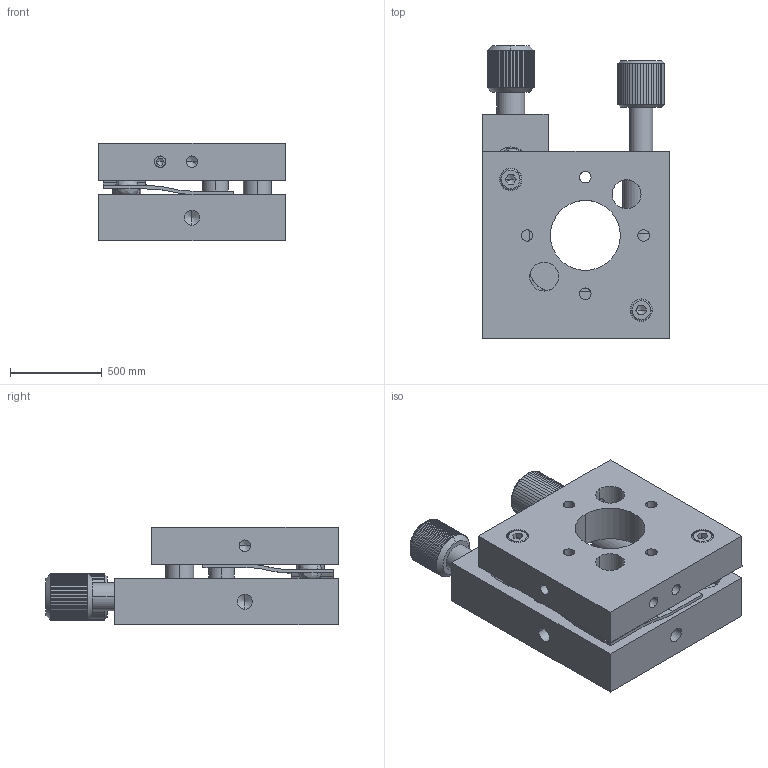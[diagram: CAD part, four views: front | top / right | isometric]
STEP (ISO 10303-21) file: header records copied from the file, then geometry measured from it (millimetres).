
FILE_DESCRIPTION (( 'STEP AP203' ), '1' );
FILE_NAME ('5OM122T.STEP', '2007-04-26T06:17:12', ( 'STANDA' ), ( '' ), 'SwSTEP 2.0', 'SolidWorks 2003240', '' );
FILE_SCHEMA (( 'CONFIG_CONTROL_DESIGN' ));
Products named in the file (1): 5OM122T
Bounding box: 1016 x 1592.04 x 533.17 mm (x, y, z)
Volume: 371686048.6 mm3; surface area: 8990775 mm2
Topology: 1 solids, 8 shells, 1071 faces, 2590 edges, 1541 vertices
Faces by surface type: plane 706, cylinder 143, bspline 132, cone 90
Entity records: 36095 total; most frequent: CARTESIAN_POINT 11931, ORIENTED_EDGE 5080, DIRECTION 4798, EDGE_CURVE 2540, AXIS2_PLACEMENT_3D 1671, VERTEX_POINT 1541, LINE 1456, VECTOR 1456
